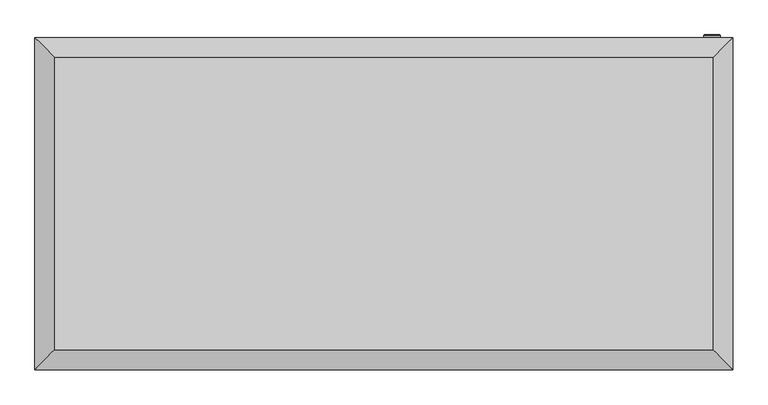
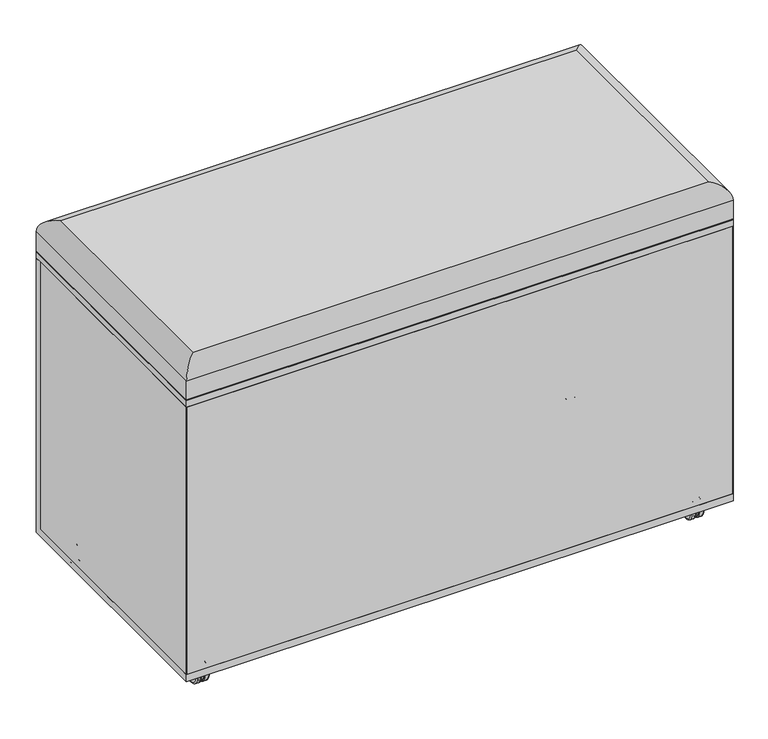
"""IFC4 building model written with IfcOpenShell, lengths in millimetres: furniture geometry, LH mobile caddy w.unpholstered seat+ sliding : LH mobile caddy w.unpholstered seat+ sliding."""

from ifc_helpers import new_model, si_unit, point, frame, frame_2d, origin, place, context, project, spatial, polyline, circle_curve, ellipse_curve, trimmed, segment, composite_curve, outline, extrude, faceted_brep, source, transform, mapped, element, save
from ifc_brep_helpers import plane_surface, cylinder_surface, revolved_surface, advanced_brep


def furniture_54b3566a(model_context):
    return source(origin(), model_context, "Body", "SolidModel", [
        advanced_brep(
        [(482.4473365, 254.0, 479.5526635), (505.5526635, 254.0, 479.5526635), (495.0273848, 254.0, 485.6206655), (493.0273848, 254.0, 485.6206655), (493.0273848, 254.0, 473.6206655), (495.0273848, 254.0, 473.6206655), (481.4473365, 250.0, 479.5526635), (506.5526635, 250.0, 479.5526635), (495.0273848, 250.0, 485.6206655), (495.0273848, 250.0, 473.6206655), (493.0273848, 250.0, 473.6206655), (493.0273848, 250.0, 485.6206655), (481.4473365, 253.0, 479.5526635), (506.5526635, 253.0, 479.5526635)],
        [
            (0, 1, circle_curve(frame((494.0, 254.0, 479.5526635), z_axis=(0.0, 1.0, 0.0), x_axis=(-1.0, 0.0, 0.0)), 11.5526635)),
            (1, 0, circle_curve(frame((494.0, 254.0, 479.5526635), z_axis=(0.0, 1.0, 0.0), x_axis=(1.0, 0.0, 0.0)), 11.5526635)),
            (2, 3),
            (3, 4),
            (4, 5),
            (5, 2),
            (6, 7, circle_curve(frame((494.0, 250.0, 479.5526635), z_axis=(0.0, -1.0, 0.0), x_axis=(1.0, 0.0, 0.0)), 12.5526635)),
            (7, 6, circle_curve(frame((494.0, 250.0, 479.5526635), z_axis=(0.0, -1.0, 0.0), x_axis=(1.0, 0.0, 0.0)), 12.5526635)),
            (8, 9),
            (9, 10),
            (10, 11),
            (11, 8),
            (6, 12),
            (12, 13, circle_curve(frame((494.0, 253.0, 479.5526635), z_axis=(0.0, -1.0, 0.0), x_axis=(1.0, 0.0, 0.0)), 12.5526635)),
            (13, 7),
            (13, 12, circle_curve(frame((494.0, 253.0, 479.5526635), z_axis=(0.0, -1.0, 0.0), x_axis=(1.0, 0.0, 0.0)), 12.5526635)),
            (5, 9),
            (8, 2),
            (4, 10),
            (3, 11),
            (1, 13, circle_curve(frame((505.5526635, 253.0, 479.5526635), z_axis=(0.0, 0.0, -1.0), x_axis=(1.0, 0.0, 0.0)), 1.0)),
            (12, 0, circle_curve(frame((482.4473365, 253.0, 479.5526635), z_axis=(0.0, 0.0, -1.0), x_axis=(-1.0, 0.0, 0.0)), 1.0)),
        ],
        [
            plane_surface(frame((506.5526635, 254.0, 479.5526635), z_axis=(0.0, 1.0, 0.0), x_axis=(0.0, 0.0, 1.0))),
            plane_surface(frame((506.5526635, 250.0, 479.5526635), z_axis=(0.0, -1.0, 0.0), x_axis=(0.0, 0.0, -1.0))),
            cylinder_surface(frame((494.0, 250.0, 479.5526635), z_axis=(0.0, 1.0, 0.0), x_axis=(1.0, 0.0, 0.0)), 12.5526635),
            plane_surface(frame((495.0273848, 254.0, 485.6206655), z_axis=(-1.0, 0.0, 0.0), x_axis=(0.0, -1.0, 0.0))),
            plane_surface(frame((495.0273848, 254.0, 473.6206655), z_axis=(0.0, 0.0, 1.0), x_axis=(0.0, -1.0, 0.0))),
            plane_surface(frame((493.0273848, 254.0, 473.6206655), z_axis=(1.0, 0.0, 0.0), x_axis=(0.0, -1.0, 0.0))),
            plane_surface(frame((493.0273848, 254.0, 485.6206655), z_axis=(0.0, 0.0, -1.0), x_axis=(0.0, -1.0, 0.0))),
            revolved_surface(trimmed(ellipse_curve(frame((505.5526635, 253.0, 479.5526635), z_axis=(0.0, 0.0, -1.0), x_axis=(1.0, 0.0, 0.0)), 1.0, 1.0), [point((505.5526635, 254.0, 479.5526635))], [point((506.5526635, 253.0, 479.5526635))], True, "CARTESIAN"), (494.0, 254.0, 479.5526635), (0.0, -1.0, 0.0)),
            revolved_surface(trimmed(ellipse_curve(frame((482.4473365, 253.0, 479.5526635), z_axis=(0.0, 0.0, 1.0), x_axis=(-1.0, 0.0, 0.0)), 1.0, 1.0), [point((482.4473365, 254.0, 479.5526635))], [point((481.4473365, 253.0, 479.5526635))], True, "CARTESIAN"), (494.0, 254.0, 479.5526635), (0.0, -1.0, 0.0)),
        ],
        [
            (0, [[1, 2], [3, 4, 5, 6]]),
            (1, [[7, 8], [9, 10, 11, 12]]),
            (2, [[13, 14, 15, -7]]),
            (2, [[-15, 16, -13, -8]]),
            (3, [[17, -9, 18, -6]]),
            (4, [[19, -10, -17, -5]]),
            (5, [[20, -11, -19, -4]]),
            (6, [[-18, -12, -20, -3]]),
            (7, [[-2, 21, -14, 22]]),
            (8, [[-16, -21, -1, -22]]),
        ],
    ),
        advanced_brep(
        [(495.0, -220.0, 685.0), (495.0, 220.0, 685.0), (-495.0, 220.0, 685.0), (-495.0, -220.0, 685.0), (523.0, 248.0, 615.0), (523.0, -248.0, 615.0), (-523.0, -248.0, 615.0), (-523.0, 248.0, 615.0), (-525.0, -250.0, 655.0), (-525.0, -250.0, 617.0), (525.0, -250.0, 617.0), (525.0, -250.0, 655.0), (-525.0, 250.0, 655.0), (-525.0, 250.0, 617.0), (525.0, 250.0, 655.0), (525.0, 250.0, 617.0)],
        [
            (0, 1),
            (1, 2),
            (2, 3),
            (3, 0),
            (4, 5),
            (5, 6),
            (6, 7),
            (7, 4),
            (8, 9),
            (9, 10),
            (10, 11),
            (11, 8),
            (12, 13),
            (13, 9),
            (8, 12),
            (14, 15),
            (15, 13),
            (12, 14),
            (10, 15),
            (14, 11),
            (11, 0, ellipse_curve(frame((495.0, -220.0, 655.0), z_axis=(-0.7071067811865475, -0.7071067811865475, 0.0), x_axis=(-0.7071067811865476, 0.7071067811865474, 0.0)), 42.4264069, 30.0)),
            (3, 8, ellipse_curve(frame((-495.0, -220.0, 655.0), z_axis=(0.7071067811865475, -0.7071067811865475, 0.0), x_axis=(-0.7071067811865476, -0.7071067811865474, 0.0)), 42.4264069, 30.0)),
            (2, 12, ellipse_curve(frame((-495.0, 220.0, 655.0), z_axis=(-0.7071067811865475, -0.7071067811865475, 0.0), x_axis=(-0.7071067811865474, 0.7071067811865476, 0.0)), 42.4264069, 30.0)),
            (1, 14, ellipse_curve(frame((495.0, 220.0, 655.0), z_axis=(-0.7071067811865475, 0.7071067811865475, 0.0), x_axis=(0.7071067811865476, 0.7071067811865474, 0.0)), 42.4264069, 30.0)),
            (15, 4, ellipse_curve(frame((523.0, 248.0, 617.0), z_axis=(-0.7071067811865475, 0.7071067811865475, 0.0), x_axis=(-0.7071067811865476, -0.7071067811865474, 0.0)), 2.8284271, 2.0)),
            (7, 13, ellipse_curve(frame((-523.0, 248.0, 617.0), z_axis=(0.7071067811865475, 0.7071067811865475, 0.0), x_axis=(-0.7071067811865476, 0.7071067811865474, 0.0)), 2.8284271, 2.0)),
            (6, 9, ellipse_curve(frame((-523.0, -248.0, 617.0), z_axis=(-0.7071067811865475, 0.7071067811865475, 0.0), x_axis=(-0.7071067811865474, -0.7071067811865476, 0.0)), 2.8284271, 2.0)),
            (5, 10, ellipse_curve(frame((523.0, -248.0, 617.0), z_axis=(-0.7071067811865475, -0.7071067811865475, 0.0), x_axis=(0.7071067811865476, -0.7071067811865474, 0.0)), 2.8284271, 2.0)),
        ],
        [
            plane_surface(frame((-525.0, -250.0, 685.0), z_axis=(0.0, 0.0, 1.0), x_axis=(-1.0, 0.0, 0.0))),
            plane_surface(frame((-525.0, -250.0, 615.0), z_axis=(0.0, 0.0, -1.0), x_axis=(1.0, 0.0, 0.0))),
            plane_surface(frame((525.0, -250.0, 685.0), z_axis=(0.0, -1.0, 0.0), x_axis=(0.0, 0.0, -1.0))),
            plane_surface(frame((-525.0, -250.0, 685.0), z_axis=(-1.0, 0.0, 0.0), x_axis=(0.0, 0.0, -1.0))),
            plane_surface(frame((-525.0, 250.0, 685.0), z_axis=(0.0, 1.0, 0.0), x_axis=(0.0, 0.0, -1.0))),
            plane_surface(frame((525.0, 250.0, 685.0), z_axis=(1.0, 0.0, 0.0), x_axis=(0.0, 0.0, -1.0))),
            cylinder_surface(frame((525.0, -220.0, 655.0), z_axis=(-1.0, 0.0, 0.0), x_axis=(0.0, 1.0, 0.0)), 30.0),
            cylinder_surface(frame((-495.0, -250.0, 655.0), z_axis=(0.0, 1.0, 0.0), x_axis=(1.0, 0.0, 0.0)), 30.0),
            cylinder_surface(frame((-525.0, 220.0, 655.0), z_axis=(1.0, 0.0, 0.0), x_axis=(0.0, -1.0, 0.0)), 30.0),
            cylinder_surface(frame((495.0, 250.0, 655.0), z_axis=(0.0, -1.0, 0.0), x_axis=(-1.0, 0.0, 0.0)), 30.0),
            cylinder_surface(frame((525.0, 248.0, 617.0), z_axis=(-1.0, 0.0, 0.0), x_axis=(0.0, -1.0, 0.0)), 2.0),
            cylinder_surface(frame((-523.0, 250.0, 617.0), z_axis=(0.0, -1.0, 0.0), x_axis=(1.0, 0.0, 0.0)), 2.0),
            cylinder_surface(frame((-525.0, -248.0, 617.0), z_axis=(1.0, 0.0, 0.0), x_axis=(0.0, 1.0, 0.0)), 2.0),
            cylinder_surface(frame((523.0, -250.0, 617.0), z_axis=(0.0, 1.0, 0.0), x_axis=(-1.0, 0.0, 0.0)), 2.0),
        ],
        [
            (0, [[1, 2, 3, 4]]),
            (1, [[5, 6, 7, 8]]),
            (2, [[9, 10, 11, 12]]),
            (3, [[13, 14, -9, 15]]),
            (4, [[16, 17, -13, 18]]),
            (5, [[-11, 19, -16, 20]]),
            (6, [[-12, 21, -4, 22]]),
            (7, [[-3, 23, -15, -22]]),
            (8, [[-2, 24, -18, -23]]),
            (9, [[-20, -24, -1, -21]]),
            (10, [[-17, 25, -8, 26]]),
            (11, [[-7, 27, -14, -26]]),
            (12, [[-6, 28, -10, -27]]),
            (13, [[-19, -28, -5, -25]]),
        ],
    ),
        extrude(outline(polyline([(485.0, 190.0), (465.0, 190.0), (465.0, 210.0), (485.0, 210.0), (485.0, 190.0)])), frame((0.0, 0.0, 43.9728703), z_axis=(0.0, 0.0, 1.0), x_axis=(1.0, 0.0, 0.0)), (0.0, 0.0, 1.0), 1.0),
        extrude(outline(composite_curve([segment(trimmed(circle_curve(frame_2d((475.0, 200.0)), 5.0), [point((470.0, 200.0))], [point((480.0, 200.0))], False, "CARTESIAN"), True, "CONTINUOUS"), segment(trimmed(circle_curve(frame_2d((475.0, 200.0)), 5.0), [point((480.0, 200.0))], [point((470.0, 200.0))], False, "CARTESIAN"), True, "CONTINUOUS")], self_intersect=False)), frame((0.0, 0.0, 33.9910172), z_axis=(0.0, 0.0, 1.0), x_axis=(1.0, 0.0, 0.0)), (0.0, 0.0, 1.0), 9.9818531),
        advanced_brep(
        [(479.1141274, 200.0, -0.0314992), (485.4241314, 200.0, -0.0314992), (485.4241314, 200.0, 38.0135337), (479.1141274, 200.0, 38.0135337), (477.5141274, 200.0, 2.5273707), (477.5141274, 200.0, 1.5685008), (477.5141274, 200.0, 36.4135337), (477.5141274, 200.0, 35.4546638), (487.5141274, 200.0, 2.0584968), (487.5141274, 200.0, 18.9910172), (487.5141274, 200.0, 35.9235376), (472.4858726, 200.0, 2.5273707), (472.4858726, 200.0, 35.4546638), (472.4858726, 200.0, 1.6116925), (472.4858726, 200.0, 36.370342), (470.8426809, 200.0, -0.0314992), (470.8426809, 200.0, 38.0135337), (464.4746043, 200.0, -0.0314992), (464.4746043, 200.0, 38.0135337), (462.4858726, 200.0, 1.9572325), (462.4858726, 200.0, 36.0248019), (462.4858726, 200.0, 18.9910172)],
        [
            (0, 1),
            (1, 2, circle_curve(frame((485.4241314, 200.0, 18.9910172), z_axis=(-1.0, 0.0, 0.0), x_axis=(0.0, 0.0, 1.0)), 19.0225164)),
            (2, 3),
            (3, 0, circle_curve(frame((479.1141274, 200.0, 18.9910172), z_axis=(1.0, 0.0, 0.0), x_axis=(0.0, 0.0, 1.0)), 19.0225164)),
            (2, 1, circle_curve(frame((485.4241314, 200.0, 18.9910172), z_axis=(-1.0, 0.0, 0.0), x_axis=(0.0, 0.0, 1.0)), 19.0225164)),
            (0, 3, circle_curve(frame((479.1141274, 200.0, 18.9910172), z_axis=(1.0, 0.0, 0.0), x_axis=(0.0, 0.0, 1.0)), 19.0225164)),
            (4, 5),
            (5, 6, circle_curve(frame((477.5141274, 200.0, 18.9910172), z_axis=(-1.0, 0.0, 0.0), x_axis=(0.0, 0.0, 1.0)), 17.4225164)),
            (6, 7),
            (7, 4, circle_curve(frame((477.5141274, 200.0, 18.9910172), z_axis=(1.0, 0.0, 0.0), x_axis=(0.0, 0.0, 1.0)), 16.4636466)),
            (6, 5, circle_curve(frame((477.5141274, 200.0, 18.9910172), z_axis=(-1.0, 0.0, 0.0), x_axis=(0.0, 0.0, 1.0)), 17.4225164)),
            (4, 7, circle_curve(frame((477.5141274, 200.0, 18.9910172), z_axis=(1.0, 0.0, 0.0), x_axis=(0.0, 0.0, 1.0)), 16.4636466)),
            (8, 9),
            (9, 10),
            (10, 8, circle_curve(frame((487.5141274, 200.0, 18.9910172), z_axis=(1.0, 0.0, 0.0), x_axis=(0.0, 0.0, 1.0)), 16.9325204)),
            (8, 10, circle_curve(frame((487.5141274, 200.0, 18.9910172), z_axis=(1.0, 0.0, 0.0), x_axis=(0.0, 0.0, 1.0)), 16.9325204)),
            (1, 8, circle_curve(frame((485.4241314, 200.0, 2.0584968), z_axis=(0.0, -1.0, 0.0), x_axis=(1.0, 0.0, 0.0)), 2.0899961)),
            (10, 2, circle_curve(frame((485.4241314, 200.0, 35.9235376), z_axis=(0.0, -1.0, 0.0), x_axis=(1.0, 0.0, 0.0)), 2.0899961)),
            (5, 0, circle_curve(frame((479.1141274, 200.0, 1.5685008), z_axis=(0.0, -1.0, 0.0), x_axis=(1.0, 0.0, 0.0)), 1.6)),
            (3, 6, circle_curve(frame((479.1141274, 200.0, 36.4135337), z_axis=(0.0, -1.0, 0.0), x_axis=(1.0, 0.0, 0.0)), 1.6)),
            (11, 4),
            (7, 12),
            (12, 11, circle_curve(frame((472.4858726, 200.0, 18.9910172), z_axis=(1.0, 0.0, 0.0), x_axis=(0.0, 0.0, 1.0)), 16.4636466)),
            (11, 12, circle_curve(frame((472.4858726, 200.0, 18.9910172), z_axis=(1.0, 0.0, 0.0), x_axis=(0.0, 0.0, 1.0)), 16.4636466)),
            (13, 11),
            (12, 14),
            (14, 13, circle_curve(frame((472.4858726, 200.0, 18.9910172), z_axis=(1.0, 0.0, 0.0), x_axis=(0.0, 0.0, 1.0)), 17.3793248)),
            (13, 14, circle_curve(frame((472.4858726, 200.0, 18.9910172), z_axis=(1.0, 0.0, 0.0), x_axis=(0.0, 0.0, 1.0)), 17.3793248)),
            (15, 13, circle_curve(frame((470.8426809, 200.0, 1.6116925), z_axis=(0.0, -1.0, 0.0), x_axis=(1.0, 0.0, 0.0)), 1.6431917)),
            (14, 16, circle_curve(frame((470.8426809, 200.0, 36.370342), z_axis=(0.0, -1.0, 0.0), x_axis=(1.0, 0.0, 0.0)), 1.6431917)),
            (16, 15, circle_curve(frame((470.8426809, 200.0, 18.9910172), z_axis=(1.0, 0.0, 0.0), x_axis=(0.0, 0.0, 1.0)), 19.0225164)),
            (15, 16, circle_curve(frame((470.8426809, 200.0, 18.9910172), z_axis=(1.0, 0.0, 0.0), x_axis=(0.0, 0.0, 1.0)), 19.0225164)),
            (17, 15),
            (16, 18),
            (18, 17, circle_curve(frame((464.4746043, 200.0, 18.9910172), z_axis=(1.0, 0.0, 0.0), x_axis=(0.0, 0.0, 1.0)), 19.0225164)),
            (17, 18, circle_curve(frame((464.4746043, 200.0, 18.9910172), z_axis=(1.0, 0.0, 0.0), x_axis=(0.0, 0.0, 1.0)), 19.0225164)),
            (19, 17, circle_curve(frame((464.4746043, 200.0, 1.9572325), z_axis=(0.0, -1.0, 0.0), x_axis=(1.0, 0.0, 0.0)), 1.9887317)),
            (18, 20, circle_curve(frame((464.4746043, 200.0, 36.0248019), z_axis=(0.0, -1.0, 0.0), x_axis=(1.0, 0.0, 0.0)), 1.9887317)),
            (20, 19, circle_curve(frame((462.4858726, 200.0, 18.9910172), z_axis=(1.0, 0.0, 0.0), x_axis=(0.0, 0.0, 1.0)), 17.0337847)),
            (19, 20, circle_curve(frame((462.4858726, 200.0, 18.9910172), z_axis=(1.0, 0.0, 0.0), x_axis=(0.0, 0.0, 1.0)), 17.0337847)),
            (21, 19),
            (20, 21),
        ],
        [
            cylinder_surface(frame((433.3216538, 200.0, 18.9910172), z_axis=(-1.0, 0.0, 0.0), x_axis=(0.0, 0.0, 1.0)), 19.0225164),
            plane_surface(frame((477.5141274, 200.0, 18.9910172), z_axis=(-1.0, 0.0, 0.0), x_axis=(0.0, 0.0, 1.0))),
            plane_surface(frame((487.5141274, 200.0, 18.9910172), z_axis=(1.0, 0.0, 0.0), x_axis=(0.0, 0.0, 1.0))),
            revolved_surface(trimmed(ellipse_curve(frame((485.4241314, 200.0, 35.9235376), z_axis=(0.0, -1.0, 0.0), x_axis=(1.0, 0.0, 0.0)), 2.0899961, 2.0899961), [point((487.5141274, 200.0, 35.9235376))], [point((485.4241314, 200.0, 38.0135337))], True, "CARTESIAN"), (433.3216538, 200.0, 18.9910172), (-1.0, 0.0, 0.0)),
            revolved_surface(trimmed(ellipse_curve(frame((479.1141274, 200.0, 36.4135337), z_axis=(0.0, -1.0, 0.0), x_axis=(1.0, 0.0, 0.0)), 1.6, 1.6), [point((479.1141274, 200.0, 38.0135337))], [point((477.5141274, 200.0, 36.4135337))], True, "CARTESIAN"), (433.3216538, 200.0, 18.9910172), (-1.0, 0.0, 0.0)),
            cylinder_surface(frame((433.3216538, 200.0, 18.9910172), z_axis=(-1.0, 0.0, 0.0), x_axis=(0.0, 0.0, 1.0)), 16.4636466),
            plane_surface(frame((472.4858726, 200.0, 18.9910172), z_axis=(1.0, 0.0, 0.0), x_axis=(0.0, 0.0, 1.0))),
            revolved_surface(trimmed(ellipse_curve(frame((470.8426809, 200.0, 36.370342), z_axis=(0.0, -1.0, 0.0), x_axis=(1.0, 0.0, 0.0)), 1.6431917, 1.6431917), [point((472.4858726, 200.0, 36.370342))], [point((470.8426809, 200.0, 38.0135337))], True, "CARTESIAN"), (433.3216538, 200.0, 18.9910172), (-1.0, 0.0, 0.0)),
            revolved_surface(trimmed(ellipse_curve(frame((464.4746043, 200.0, 36.0248019), z_axis=(0.0, -1.0, 0.0), x_axis=(1.0, 0.0, 0.0)), 1.9887317, 1.9887317), [point((464.4746043, 200.0, 38.0135337))], [point((462.4858726, 200.0, 36.0248019))], True, "CARTESIAN"), (433.3216538, 200.0, 18.9910172), (-1.0, 0.0, 0.0)),
            plane_surface(frame((462.4858726, 200.0, 18.9910172), z_axis=(-1.0, 0.0, 0.0), x_axis=(0.0, 0.0, 1.0))),
        ],
        [
            (0, [[1, 2, 3, 4]]),
            (0, [[-3, 5, -1, 6]]),
            (1, [[7, 8, 9, 10]]),
            (1, [[-9, 11, -7, 12]]),
            (2, [[13, 14, 15]]),
            (2, [[-14, -13, 16]]),
            (3, [[17, -15, 18, -2]]),
            (3, [[-18, -16, -17, -5]]),
            (4, [[19, -4, 20, -8]]),
            (4, [[-20, -6, -19, -11]]),
            (5, [[21, -10, 22, 23]]),
            (5, [[-22, -12, -21, 24]]),
            (6, [[25, -23, 26, 27]]),
            (6, [[-26, -24, -25, 28]]),
            (7, [[29, -27, 30, 31]]),
            (7, [[-30, -28, -29, 32]]),
            (0, [[33, -31, 34, 35]]),
            (0, [[-34, -32, -33, 36]]),
            (8, [[37, -35, 38, 39]]),
            (8, [[-38, -36, -37, 40]]),
            (9, [[41, -39, 42]]),
            (9, [[-42, -40, -41]]),
        ],
    ),
        extrude(outline(polyline([(-465.0, 190.0), (-485.0, 190.0), (-485.0, 210.0), (-465.0, 210.0), (-465.0, 190.0)])), frame((0.0, 0.0, 43.9728703), z_axis=(0.0, 0.0, 1.0), x_axis=(1.0, 0.0, 0.0)), (0.0, 0.0, 1.0), 1.0),
        extrude(outline(composite_curve([segment(trimmed(circle_curve(frame_2d((-475.0, 200.0)), 5.0), [point((-480.0, 200.0))], [point((-470.0, 200.0))], False, "CARTESIAN"), True, "CONTINUOUS"), segment(trimmed(circle_curve(frame_2d((-475.0, 200.0)), 5.0), [point((-470.0, 200.0))], [point((-480.0, 200.0))], False, "CARTESIAN"), True, "CONTINUOUS")], self_intersect=False)), frame((0.0, 0.0, 33.9910172), z_axis=(0.0, 0.0, 1.0), x_axis=(1.0, 0.0, 0.0)), (0.0, 0.0, 1.0), 9.9818531),
        advanced_brep(
        [(-470.8858726, 200.0, -0.0314992), (-464.5758686, 200.0, -0.0314992), (-464.5758686, 200.0, 38.0135337), (-470.8858726, 200.0, 38.0135337), (-472.4858726, 200.0, 2.5273707), (-472.4858726, 200.0, 1.5685008), (-472.4858726, 200.0, 36.4135337), (-472.4858726, 200.0, 35.4546638), (-462.4858726, 200.0, 2.0584968), (-462.4858726, 200.0, 18.9910172), (-462.4858726, 200.0, 35.9235376), (-477.5141274, 200.0, 2.5273707), (-477.5141274, 200.0, 35.4546638), (-477.5141274, 200.0, 1.6116925), (-477.5141274, 200.0, 36.370342), (-479.1573191, 200.0, -0.0314992), (-479.1573191, 200.0, 38.0135337), (-485.5253957, 200.0, -0.0314992), (-485.5253957, 200.0, 38.0135337), (-487.5141274, 200.0, 1.9572325), (-487.5141274, 200.0, 36.0248019), (-487.5141274, 200.0, 18.9910172)],
        [
            (0, 1),
            (1, 2, circle_curve(frame((-464.5758686, 200.0, 18.9910172), z_axis=(-1.0, 0.0, 0.0), x_axis=(0.0, 0.0, 1.0)), 19.0225164)),
            (2, 3),
            (3, 0, circle_curve(frame((-470.8858726, 200.0, 18.9910172), z_axis=(1.0, 0.0, 0.0), x_axis=(0.0, 0.0, 1.0)), 19.0225164)),
            (2, 1, circle_curve(frame((-464.5758686, 200.0, 18.9910172), z_axis=(-1.0, 0.0, 0.0), x_axis=(0.0, 0.0, 1.0)), 19.0225164)),
            (0, 3, circle_curve(frame((-470.8858726, 200.0, 18.9910172), z_axis=(1.0, 0.0, 0.0), x_axis=(0.0, 0.0, 1.0)), 19.0225164)),
            (4, 5),
            (5, 6, circle_curve(frame((-472.4858726, 200.0, 18.9910172), z_axis=(-1.0, 0.0, 0.0), x_axis=(0.0, 0.0, 1.0)), 17.4225164)),
            (6, 7),
            (7, 4, circle_curve(frame((-472.4858726, 200.0, 18.9910172), z_axis=(1.0, 0.0, 0.0), x_axis=(0.0, 0.0, 1.0)), 16.4636466)),
            (6, 5, circle_curve(frame((-472.4858726, 200.0, 18.9910172), z_axis=(-1.0, 0.0, 0.0), x_axis=(0.0, 0.0, 1.0)), 17.4225164)),
            (4, 7, circle_curve(frame((-472.4858726, 200.0, 18.9910172), z_axis=(1.0, 0.0, 0.0), x_axis=(0.0, 0.0, 1.0)), 16.4636466)),
            (8, 9),
            (9, 10),
            (10, 8, circle_curve(frame((-462.4858726, 200.0, 18.9910172), z_axis=(1.0, 0.0, 0.0), x_axis=(0.0, 0.0, 1.0)), 16.9325204)),
            (8, 10, circle_curve(frame((-462.4858726, 200.0, 18.9910172), z_axis=(1.0, 0.0, 0.0), x_axis=(0.0, 0.0, 1.0)), 16.9325204)),
            (1, 8, circle_curve(frame((-464.5758686, 200.0, 2.0584968), z_axis=(0.0, -1.0, 0.0), x_axis=(1.0, 0.0, 0.0)), 2.0899961)),
            (10, 2, circle_curve(frame((-464.5758686, 200.0, 35.9235376), z_axis=(0.0, -1.0, 0.0), x_axis=(1.0, 0.0, 0.0)), 2.0899961)),
            (5, 0, circle_curve(frame((-470.8858726, 200.0, 1.5685008), z_axis=(0.0, -1.0, 0.0), x_axis=(1.0, 0.0, 0.0)), 1.6)),
            (3, 6, circle_curve(frame((-470.8858726, 200.0, 36.4135337), z_axis=(0.0, -1.0, 0.0), x_axis=(1.0, 0.0, 0.0)), 1.6)),
            (11, 4),
            (7, 12),
            (12, 11, circle_curve(frame((-477.5141274, 200.0, 18.9910172), z_axis=(1.0, 0.0, 0.0), x_axis=(0.0, 0.0, 1.0)), 16.4636466)),
            (11, 12, circle_curve(frame((-477.5141274, 200.0, 18.9910172), z_axis=(1.0, 0.0, 0.0), x_axis=(0.0, 0.0, 1.0)), 16.4636466)),
            (13, 11),
            (12, 14),
            (14, 13, circle_curve(frame((-477.5141274, 200.0, 18.9910172), z_axis=(1.0, 0.0, 0.0), x_axis=(0.0, 0.0, 1.0)), 17.3793248)),
            (13, 14, circle_curve(frame((-477.5141274, 200.0, 18.9910172), z_axis=(1.0, 0.0, 0.0), x_axis=(0.0, 0.0, 1.0)), 17.3793248)),
            (15, 13, circle_curve(frame((-479.1573191, 200.0, 1.6116925), z_axis=(0.0, -1.0, 0.0), x_axis=(1.0, 0.0, 0.0)), 1.6431917)),
            (14, 16, circle_curve(frame((-479.1573191, 200.0, 36.370342), z_axis=(0.0, -1.0, 0.0), x_axis=(1.0, 0.0, 0.0)), 1.6431917)),
            (16, 15, circle_curve(frame((-479.1573191, 200.0, 18.9910172), z_axis=(1.0, 0.0, 0.0), x_axis=(0.0, 0.0, 1.0)), 19.0225164)),
            (15, 16, circle_curve(frame((-479.1573191, 200.0, 18.9910172), z_axis=(1.0, 0.0, 0.0), x_axis=(0.0, 0.0, 1.0)), 19.0225164)),
            (17, 15),
            (16, 18),
            (18, 17, circle_curve(frame((-485.5253957, 200.0, 18.9910172), z_axis=(1.0, 0.0, 0.0), x_axis=(0.0, 0.0, 1.0)), 19.0225164)),
            (17, 18, circle_curve(frame((-485.5253957, 200.0, 18.9910172), z_axis=(1.0, 0.0, 0.0), x_axis=(0.0, 0.0, 1.0)), 19.0225164)),
            (19, 17, circle_curve(frame((-485.5253957, 200.0, 1.9572325), z_axis=(0.0, -1.0, 0.0), x_axis=(1.0, 0.0, 0.0)), 1.9887317)),
            (18, 20, circle_curve(frame((-485.5253957, 200.0, 36.0248019), z_axis=(0.0, -1.0, 0.0), x_axis=(1.0, 0.0, 0.0)), 1.9887317)),
            (20, 19, circle_curve(frame((-487.5141274, 200.0, 18.9910172), z_axis=(1.0, 0.0, 0.0), x_axis=(0.0, 0.0, 1.0)), 17.0337847)),
            (19, 20, circle_curve(frame((-487.5141274, 200.0, 18.9910172), z_axis=(1.0, 0.0, 0.0), x_axis=(0.0, 0.0, 1.0)), 17.0337847)),
            (21, 19),
            (20, 21),
        ],
        [
            cylinder_surface(frame((-516.6783462, 200.0, 18.9910172), z_axis=(-1.0, 0.0, 0.0), x_axis=(0.0, 0.0, 1.0)), 19.0225164),
            plane_surface(frame((-472.4858726, 200.0, 18.9910172), z_axis=(-1.0, 0.0, 0.0), x_axis=(0.0, 0.0, 1.0))),
            plane_surface(frame((-462.4858726, 200.0, 18.9910172), z_axis=(1.0, 0.0, 0.0), x_axis=(0.0, 0.0, 1.0))),
            revolved_surface(trimmed(ellipse_curve(frame((-464.5758686, 200.0, 35.9235376), z_axis=(0.0, -1.0, 0.0), x_axis=(1.0, 0.0, 0.0)), 2.0899961, 2.0899961), [point((-462.4858726, 200.0, 35.9235376))], [point((-464.5758686, 200.0, 38.0135337))], True, "CARTESIAN"), (-516.6783462, 200.0, 18.9910172), (-1.0, 0.0, 0.0)),
            revolved_surface(trimmed(ellipse_curve(frame((-470.8858726, 200.0, 36.4135337), z_axis=(0.0, -1.0, 0.0), x_axis=(1.0, 0.0, 0.0)), 1.6, 1.6), [point((-470.8858726, 200.0, 38.0135337))], [point((-472.4858726, 200.0, 36.4135337))], True, "CARTESIAN"), (-516.6783462, 200.0, 18.9910172), (-1.0, 0.0, 0.0)),
            cylinder_surface(frame((-516.6783462, 200.0, 18.9910172), z_axis=(-1.0, 0.0, 0.0), x_axis=(0.0, 0.0, 1.0)), 16.4636466),
            plane_surface(frame((-477.5141274, 200.0, 18.9910172), z_axis=(1.0, 0.0, 0.0), x_axis=(0.0, 0.0, 1.0))),
            revolved_surface(trimmed(ellipse_curve(frame((-479.1573191, 200.0, 36.370342), z_axis=(0.0, -1.0, 0.0), x_axis=(1.0, 0.0, 0.0)), 1.6431917, 1.6431917), [point((-477.5141274, 200.0, 36.370342))], [point((-479.1573191, 200.0, 38.0135337))], True, "CARTESIAN"), (-516.6783462, 200.0, 18.9910172), (-1.0, 0.0, 0.0)),
            revolved_surface(trimmed(ellipse_curve(frame((-485.5253957, 200.0, 36.0248019), z_axis=(0.0, -1.0, 0.0), x_axis=(1.0, 0.0, 0.0)), 1.9887317, 1.9887317), [point((-485.5253957, 200.0, 38.0135337))], [point((-487.5141274, 200.0, 36.0248019))], True, "CARTESIAN"), (-516.6783462, 200.0, 18.9910172), (-1.0, 0.0, 0.0)),
            plane_surface(frame((-487.5141274, 200.0, 18.9910172), z_axis=(-1.0, 0.0, 0.0), x_axis=(0.0, 0.0, 1.0))),
        ],
        [
            (0, [[1, 2, 3, 4]]),
            (0, [[-3, 5, -1, 6]]),
            (1, [[7, 8, 9, 10]]),
            (1, [[-9, 11, -7, 12]]),
            (2, [[13, 14, 15]]),
            (2, [[-14, -13, 16]]),
            (3, [[17, -15, 18, -2]]),
            (3, [[-18, -16, -17, -5]]),
            (4, [[19, -4, 20, -8]]),
            (4, [[-20, -6, -19, -11]]),
            (5, [[21, -10, 22, 23]]),
            (5, [[-22, -12, -21, 24]]),
            (6, [[25, -23, 26, 27]]),
            (6, [[-26, -24, -25, 28]]),
            (7, [[29, -27, 30, 31]]),
            (7, [[-30, -28, -29, 32]]),
            (0, [[33, -31, 34, 35]]),
            (0, [[-34, -32, -33, 36]]),
            (8, [[37, -35, 38, 39]]),
            (8, [[-38, -36, -37, 40]]),
            (9, [[41, -39, 42]]),
            (9, [[-42, -40, -41]]),
        ],
    ),
        extrude(outline(polyline([(-465.0, -210.0), (-485.0, -210.0), (-485.0, -190.0), (-465.0, -190.0), (-465.0, -210.0)])), frame((0.0, 0.0, 43.9728703), z_axis=(0.0, 0.0, 1.0), x_axis=(1.0, 0.0, 0.0)), (0.0, 0.0, 1.0), 1.0),
        extrude(outline(composite_curve([segment(trimmed(circle_curve(frame_2d((-475.0, -200.0)), 5.0), [point((-480.0, -200.0))], [point((-470.0, -200.0))], False, "CARTESIAN"), True, "CONTINUOUS"), segment(trimmed(circle_curve(frame_2d((-475.0, -200.0)), 5.0), [point((-470.0, -200.0))], [point((-480.0, -200.0))], False, "CARTESIAN"), True, "CONTINUOUS")], self_intersect=False)), frame((0.0, 0.0, 33.9910172), z_axis=(0.0, 0.0, 1.0), x_axis=(1.0, 0.0, 0.0)), (0.0, 0.0, 1.0), 9.9818531),
        advanced_brep(
        [(-470.8858726, -200.0, -0.0314992), (-464.5758686, -200.0, -0.0314992), (-464.5758686, -200.0, 38.0135337), (-470.8858726, -200.0, 38.0135337), (-472.4858726, -200.0, 2.5273707), (-472.4858726, -200.0, 1.5685008), (-472.4858726, -200.0, 36.4135337), (-472.4858726, -200.0, 35.4546638), (-462.4858726, -200.0, 2.0584968), (-462.4858726, -200.0, 18.9910172), (-462.4858726, -200.0, 35.9235376), (-477.5141274, -200.0, 2.5273707), (-477.5141274, -200.0, 35.4546638), (-477.5141274, -200.0, 1.6116925), (-477.5141274, -200.0, 36.370342), (-479.1573191, -200.0, -0.0314992), (-479.1573191, -200.0, 38.0135337), (-485.5253957, -200.0, -0.0314992), (-485.5253957, -200.0, 38.0135337), (-487.5141274, -200.0, 1.9572325), (-487.5141274, -200.0, 36.0248019), (-487.5141274, -200.0, 18.9910172)],
        [
            (0, 1),
            (1, 2, circle_curve(frame((-464.5758686, -200.0, 18.9910172), z_axis=(-1.0, 0.0, 0.0), x_axis=(0.0, 0.0, 1.0)), 19.0225164)),
            (2, 3),
            (3, 0, circle_curve(frame((-470.8858726, -200.0, 18.9910172), z_axis=(1.0, 0.0, 0.0), x_axis=(0.0, 0.0, 1.0)), 19.0225164)),
            (2, 1, circle_curve(frame((-464.5758686, -200.0, 18.9910172), z_axis=(-1.0, 0.0, 0.0), x_axis=(0.0, 0.0, 1.0)), 19.0225164)),
            (0, 3, circle_curve(frame((-470.8858726, -200.0, 18.9910172), z_axis=(1.0, 0.0, 0.0), x_axis=(0.0, 0.0, 1.0)), 19.0225164)),
            (4, 5),
            (5, 6, circle_curve(frame((-472.4858726, -200.0, 18.9910172), z_axis=(-1.0, 0.0, 0.0), x_axis=(0.0, 0.0, 1.0)), 17.4225164)),
            (6, 7),
            (7, 4, circle_curve(frame((-472.4858726, -200.0, 18.9910172), z_axis=(1.0, 0.0, 0.0), x_axis=(0.0, 0.0, 1.0)), 16.4636466)),
            (6, 5, circle_curve(frame((-472.4858726, -200.0, 18.9910172), z_axis=(-1.0, 0.0, 0.0), x_axis=(0.0, 0.0, 1.0)), 17.4225164)),
            (4, 7, circle_curve(frame((-472.4858726, -200.0, 18.9910172), z_axis=(1.0, 0.0, 0.0), x_axis=(0.0, 0.0, 1.0)), 16.4636466)),
            (8, 9),
            (9, 10),
            (10, 8, circle_curve(frame((-462.4858726, -200.0, 18.9910172), z_axis=(1.0, 0.0, 0.0), x_axis=(0.0, 0.0, 1.0)), 16.9325204)),
            (8, 10, circle_curve(frame((-462.4858726, -200.0, 18.9910172), z_axis=(1.0, 0.0, 0.0), x_axis=(0.0, 0.0, 1.0)), 16.9325204)),
            (1, 8, circle_curve(frame((-464.5758686, -200.0, 2.0584968), z_axis=(0.0, -1.0, 0.0), x_axis=(1.0, 0.0, 0.0)), 2.0899961)),
            (10, 2, circle_curve(frame((-464.5758686, -200.0, 35.9235376), z_axis=(0.0, -1.0, 0.0), x_axis=(1.0, 0.0, 0.0)), 2.0899961)),
            (5, 0, circle_curve(frame((-470.8858726, -200.0, 1.5685008), z_axis=(0.0, -1.0, 0.0), x_axis=(1.0, 0.0, 0.0)), 1.6)),
            (3, 6, circle_curve(frame((-470.8858726, -200.0, 36.4135337), z_axis=(0.0, -1.0, 0.0), x_axis=(1.0, 0.0, 0.0)), 1.6)),
            (11, 4),
            (7, 12),
            (12, 11, circle_curve(frame((-477.5141274, -200.0, 18.9910172), z_axis=(1.0, 0.0, 0.0), x_axis=(0.0, 0.0, 1.0)), 16.4636466)),
            (11, 12, circle_curve(frame((-477.5141274, -200.0, 18.9910172), z_axis=(1.0, 0.0, 0.0), x_axis=(0.0, 0.0, 1.0)), 16.4636466)),
            (13, 11),
            (12, 14),
            (14, 13, circle_curve(frame((-477.5141274, -200.0, 18.9910172), z_axis=(1.0, 0.0, 0.0), x_axis=(0.0, 0.0, 1.0)), 17.3793248)),
            (13, 14, circle_curve(frame((-477.5141274, -200.0, 18.9910172), z_axis=(1.0, 0.0, 0.0), x_axis=(0.0, 0.0, 1.0)), 17.3793248)),
            (15, 13, circle_curve(frame((-479.1573191, -200.0, 1.6116925), z_axis=(0.0, -1.0, 0.0), x_axis=(1.0, 0.0, 0.0)), 1.6431917)),
            (14, 16, circle_curve(frame((-479.1573191, -200.0, 36.370342), z_axis=(0.0, -1.0, 0.0), x_axis=(1.0, 0.0, 0.0)), 1.6431917)),
            (16, 15, circle_curve(frame((-479.1573191, -200.0, 18.9910172), z_axis=(1.0, 0.0, 0.0), x_axis=(0.0, 0.0, 1.0)), 19.0225164)),
            (15, 16, circle_curve(frame((-479.1573191, -200.0, 18.9910172), z_axis=(1.0, 0.0, 0.0), x_axis=(0.0, 0.0, 1.0)), 19.0225164)),
            (17, 15),
            (16, 18),
            (18, 17, circle_curve(frame((-485.5253957, -200.0, 18.9910172), z_axis=(1.0, 0.0, 0.0), x_axis=(0.0, 0.0, 1.0)), 19.0225164)),
            (17, 18, circle_curve(frame((-485.5253957, -200.0, 18.9910172), z_axis=(1.0, 0.0, 0.0), x_axis=(0.0, 0.0, 1.0)), 19.0225164)),
            (19, 17, circle_curve(frame((-485.5253957, -200.0, 1.9572325), z_axis=(0.0, -1.0, 0.0), x_axis=(1.0, 0.0, 0.0)), 1.9887317)),
            (18, 20, circle_curve(frame((-485.5253957, -200.0, 36.0248019), z_axis=(0.0, -1.0, 0.0), x_axis=(1.0, 0.0, 0.0)), 1.9887317)),
            (20, 19, circle_curve(frame((-487.5141274, -200.0, 18.9910172), z_axis=(1.0, 0.0, 0.0), x_axis=(0.0, 0.0, 1.0)), 17.0337847)),
            (19, 20, circle_curve(frame((-487.5141274, -200.0, 18.9910172), z_axis=(1.0, 0.0, 0.0), x_axis=(0.0, 0.0, 1.0)), 17.0337847)),
            (21, 19),
            (20, 21),
        ],
        [
            cylinder_surface(frame((-516.6783462, -200.0, 18.9910172), z_axis=(-1.0, 0.0, 0.0), x_axis=(0.0, 0.0, 1.0)), 19.0225164),
            plane_surface(frame((-472.4858726, -200.0, 18.9910172), z_axis=(-1.0, 0.0, 0.0), x_axis=(0.0, 0.0, 1.0))),
            plane_surface(frame((-462.4858726, -200.0, 18.9910172), z_axis=(1.0, 0.0, 0.0), x_axis=(0.0, 0.0, 1.0))),
            revolved_surface(trimmed(ellipse_curve(frame((-464.5758686, -200.0, 35.9235376), z_axis=(0.0, -1.0, 0.0), x_axis=(1.0, 0.0, 0.0)), 2.0899961, 2.0899961), [point((-462.4858726, -200.0, 35.9235376))], [point((-464.5758686, -200.0, 38.0135337))], True, "CARTESIAN"), (-516.6783462, -200.0, 18.9910172), (-1.0, 0.0, 0.0)),
            revolved_surface(trimmed(ellipse_curve(frame((-470.8858726, -200.0, 36.4135337), z_axis=(0.0, -1.0, 0.0), x_axis=(1.0, 0.0, 0.0)), 1.6, 1.6), [point((-470.8858726, -200.0, 38.0135337))], [point((-472.4858726, -200.0, 36.4135337))], True, "CARTESIAN"), (-516.6783462, -200.0, 18.9910172), (-1.0, 0.0, 0.0)),
            cylinder_surface(frame((-516.6783462, -200.0, 18.9910172), z_axis=(-1.0, 0.0, 0.0), x_axis=(0.0, 0.0, 1.0)), 16.4636466),
            plane_surface(frame((-477.5141274, -200.0, 18.9910172), z_axis=(1.0, 0.0, 0.0), x_axis=(0.0, 0.0, 1.0))),
            revolved_surface(trimmed(ellipse_curve(frame((-479.1573191, -200.0, 36.370342), z_axis=(0.0, -1.0, 0.0), x_axis=(1.0, 0.0, 0.0)), 1.6431917, 1.6431917), [point((-477.5141274, -200.0, 36.370342))], [point((-479.1573191, -200.0, 38.0135337))], True, "CARTESIAN"), (-516.6783462, -200.0, 18.9910172), (-1.0, 0.0, 0.0)),
            revolved_surface(trimmed(ellipse_curve(frame((-485.5253957, -200.0, 36.0248019), z_axis=(0.0, -1.0, 0.0), x_axis=(1.0, 0.0, 0.0)), 1.9887317, 1.9887317), [point((-485.5253957, -200.0, 38.0135337))], [point((-487.5141274, -200.0, 36.0248019))], True, "CARTESIAN"), (-516.6783462, -200.0, 18.9910172), (-1.0, 0.0, 0.0)),
            plane_surface(frame((-487.5141274, -200.0, 18.9910172), z_axis=(-1.0, 0.0, 0.0), x_axis=(0.0, 0.0, 1.0))),
        ],
        [
            (0, [[1, 2, 3, 4]]),
            (0, [[-3, 5, -1, 6]]),
            (1, [[7, 8, 9, 10]]),
            (1, [[-9, 11, -7, 12]]),
            (2, [[13, 14, 15]]),
            (2, [[-14, -13, 16]]),
            (3, [[17, -15, 18, -2]]),
            (3, [[-18, -16, -17, -5]]),
            (4, [[19, -4, 20, -8]]),
            (4, [[-20, -6, -19, -11]]),
            (5, [[21, -10, 22, 23]]),
            (5, [[-22, -12, -21, 24]]),
            (6, [[25, -23, 26, 27]]),
            (6, [[-26, -24, -25, 28]]),
            (7, [[29, -27, 30, 31]]),
            (7, [[-30, -28, -29, 32]]),
            (0, [[33, -31, 34, 35]]),
            (0, [[-34, -32, -33, 36]]),
            (8, [[37, -35, 38, 39]]),
            (8, [[-38, -36, -37, 40]]),
            (9, [[41, -39, 42]]),
            (9, [[-42, -40, -41]]),
        ],
    ),
        extrude(outline(polyline([(485.0, -210.0), (465.0, -210.0), (465.0, -190.0), (485.0, -190.0), (485.0, -210.0)])), frame((0.0, 0.0, 43.9728703), z_axis=(0.0, 0.0, 1.0), x_axis=(1.0, 0.0, 0.0)), (0.0, 0.0, 1.0), 1.0),
        extrude(outline(composite_curve([segment(trimmed(circle_curve(frame_2d((475.0, -200.0)), 5.0), [point((470.0, -200.0))], [point((480.0, -200.0))], False, "CARTESIAN"), True, "CONTINUOUS"), segment(trimmed(circle_curve(frame_2d((475.0, -200.0)), 5.0), [point((480.0, -200.0))], [point((470.0, -200.0))], False, "CARTESIAN"), True, "CONTINUOUS")], self_intersect=False)), frame((0.0, 0.0, 33.9910172), z_axis=(0.0, 0.0, 1.0), x_axis=(1.0, 0.0, 0.0)), (0.0, 0.0, 1.0), 9.9818531),
        advanced_brep(
        [(479.1141274, -200.0, -0.0314992), (485.4241314, -200.0, -0.0314992), (485.4241314, -200.0, 38.0135337), (479.1141274, -200.0, 38.0135337), (477.5141274, -200.0, 2.5273707), (477.5141274, -200.0, 1.5685008), (477.5141274, -200.0, 36.4135337), (477.5141274, -200.0, 35.4546638), (487.5141274, -200.0, 2.0584968), (487.5141274, -200.0, 18.9910172), (487.5141274, -200.0, 35.9235376), (472.4858726, -200.0, 2.5273707), (472.4858726, -200.0, 35.4546638), (472.4858726, -200.0, 1.6116925), (472.4858726, -200.0, 36.370342), (470.8426809, -200.0, -0.0314992), (470.8426809, -200.0, 38.0135337), (464.4746043, -200.0, -0.0314992), (464.4746043, -200.0, 38.0135337), (462.4858726, -200.0, 1.9572325), (462.4858726, -200.0, 36.0248019), (462.4858726, -200.0, 18.9910172)],
        [
            (0, 1),
            (1, 2, circle_curve(frame((485.4241314, -200.0, 18.9910172), z_axis=(-1.0, 0.0, 0.0), x_axis=(0.0, 0.0, 1.0)), 19.0225164)),
            (2, 3),
            (3, 0, circle_curve(frame((479.1141274, -200.0, 18.9910172), z_axis=(1.0, 0.0, 0.0), x_axis=(0.0, 0.0, 1.0)), 19.0225164)),
            (2, 1, circle_curve(frame((485.4241314, -200.0, 18.9910172), z_axis=(-1.0, 0.0, 0.0), x_axis=(0.0, 0.0, 1.0)), 19.0225164)),
            (0, 3, circle_curve(frame((479.1141274, -200.0, 18.9910172), z_axis=(1.0, 0.0, 0.0), x_axis=(0.0, 0.0, 1.0)), 19.0225164)),
            (4, 5),
            (5, 6, circle_curve(frame((477.5141274, -200.0, 18.9910172), z_axis=(-1.0, 0.0, 0.0), x_axis=(0.0, 0.0, 1.0)), 17.4225164)),
            (6, 7),
            (7, 4, circle_curve(frame((477.5141274, -200.0, 18.9910172), z_axis=(1.0, 0.0, 0.0), x_axis=(0.0, 0.0, 1.0)), 16.4636466)),
            (6, 5, circle_curve(frame((477.5141274, -200.0, 18.9910172), z_axis=(-1.0, 0.0, 0.0), x_axis=(0.0, 0.0, 1.0)), 17.4225164)),
            (4, 7, circle_curve(frame((477.5141274, -200.0, 18.9910172), z_axis=(1.0, 0.0, 0.0), x_axis=(0.0, 0.0, 1.0)), 16.4636466)),
            (8, 9),
            (9, 10),
            (10, 8, circle_curve(frame((487.5141274, -200.0, 18.9910172), z_axis=(1.0, 0.0, 0.0), x_axis=(0.0, 0.0, 1.0)), 16.9325204)),
            (8, 10, circle_curve(frame((487.5141274, -200.0, 18.9910172), z_axis=(1.0, 0.0, 0.0), x_axis=(0.0, 0.0, 1.0)), 16.9325204)),
            (1, 8, circle_curve(frame((485.4241314, -200.0, 2.0584968), z_axis=(0.0, -1.0, 0.0), x_axis=(1.0, 0.0, 0.0)), 2.0899961)),
            (10, 2, circle_curve(frame((485.4241314, -200.0, 35.9235376), z_axis=(0.0, -1.0, 0.0), x_axis=(1.0, 0.0, 0.0)), 2.0899961)),
            (5, 0, circle_curve(frame((479.1141274, -200.0, 1.5685008), z_axis=(0.0, -1.0, 0.0), x_axis=(1.0, 0.0, 0.0)), 1.6)),
            (3, 6, circle_curve(frame((479.1141274, -200.0, 36.4135337), z_axis=(0.0, -1.0, 0.0), x_axis=(1.0, 0.0, 0.0)), 1.6)),
            (11, 4),
            (7, 12),
            (12, 11, circle_curve(frame((472.4858726, -200.0, 18.9910172), z_axis=(1.0, 0.0, 0.0), x_axis=(0.0, 0.0, 1.0)), 16.4636466)),
            (11, 12, circle_curve(frame((472.4858726, -200.0, 18.9910172), z_axis=(1.0, 0.0, 0.0), x_axis=(0.0, 0.0, 1.0)), 16.4636466)),
            (13, 11),
            (12, 14),
            (14, 13, circle_curve(frame((472.4858726, -200.0, 18.9910172), z_axis=(1.0, 0.0, 0.0), x_axis=(0.0, 0.0, 1.0)), 17.3793248)),
            (13, 14, circle_curve(frame((472.4858726, -200.0, 18.9910172), z_axis=(1.0, 0.0, 0.0), x_axis=(0.0, 0.0, 1.0)), 17.3793248)),
            (15, 13, circle_curve(frame((470.8426809, -200.0, 1.6116925), z_axis=(0.0, -1.0, 0.0), x_axis=(1.0, 0.0, 0.0)), 1.6431917)),
            (14, 16, circle_curve(frame((470.8426809, -200.0, 36.370342), z_axis=(0.0, -1.0, 0.0), x_axis=(1.0, 0.0, 0.0)), 1.6431917)),
            (16, 15, circle_curve(frame((470.8426809, -200.0, 18.9910172), z_axis=(1.0, 0.0, 0.0), x_axis=(0.0, 0.0, 1.0)), 19.0225164)),
            (15, 16, circle_curve(frame((470.8426809, -200.0, 18.9910172), z_axis=(1.0, 0.0, 0.0), x_axis=(0.0, 0.0, 1.0)), 19.0225164)),
            (17, 15),
            (16, 18),
            (18, 17, circle_curve(frame((464.4746043, -200.0, 18.9910172), z_axis=(1.0, 0.0, 0.0), x_axis=(0.0, 0.0, 1.0)), 19.0225164)),
            (17, 18, circle_curve(frame((464.4746043, -200.0, 18.9910172), z_axis=(1.0, 0.0, 0.0), x_axis=(0.0, 0.0, 1.0)), 19.0225164)),
            (19, 17, circle_curve(frame((464.4746043, -200.0, 1.9572325), z_axis=(0.0, -1.0, 0.0), x_axis=(1.0, 0.0, 0.0)), 1.9887317)),
            (18, 20, circle_curve(frame((464.4746043, -200.0, 36.0248019), z_axis=(0.0, -1.0, 0.0), x_axis=(1.0, 0.0, 0.0)), 1.9887317)),
            (20, 19, circle_curve(frame((462.4858726, -200.0, 18.9910172), z_axis=(1.0, 0.0, 0.0), x_axis=(0.0, 0.0, 1.0)), 17.0337847)),
            (19, 20, circle_curve(frame((462.4858726, -200.0, 18.9910172), z_axis=(1.0, 0.0, 0.0), x_axis=(0.0, 0.0, 1.0)), 17.0337847)),
            (21, 19),
            (20, 21),
        ],
        [
            cylinder_surface(frame((433.3216538, -200.0, 18.9910172), z_axis=(-1.0, 0.0, 0.0), x_axis=(0.0, 0.0, 1.0)), 19.0225164),
            plane_surface(frame((477.5141274, -200.0, 18.9910172), z_axis=(-1.0, 0.0, 0.0), x_axis=(0.0, 0.0, 1.0))),
            plane_surface(frame((487.5141274, -200.0, 18.9910172), z_axis=(1.0, 0.0, 0.0), x_axis=(0.0, 0.0, 1.0))),
            revolved_surface(trimmed(ellipse_curve(frame((485.4241314, -200.0, 35.9235376), z_axis=(0.0, -1.0, 0.0), x_axis=(1.0, 0.0, 0.0)), 2.0899961, 2.0899961), [point((487.5141274, -200.0, 35.9235376))], [point((485.4241314, -200.0, 38.0135337))], True, "CARTESIAN"), (433.3216538, -200.0, 18.9910172), (-1.0, 0.0, 0.0)),
            revolved_surface(trimmed(ellipse_curve(frame((479.1141274, -200.0, 36.4135337), z_axis=(0.0, -1.0, 0.0), x_axis=(1.0, 0.0, 0.0)), 1.6, 1.6), [point((479.1141274, -200.0, 38.0135337))], [point((477.5141274, -200.0, 36.4135337))], True, "CARTESIAN"), (433.3216538, -200.0, 18.9910172), (-1.0, 0.0, 0.0)),
            cylinder_surface(frame((433.3216538, -200.0, 18.9910172), z_axis=(-1.0, 0.0, 0.0), x_axis=(0.0, 0.0, 1.0)), 16.4636466),
            plane_surface(frame((472.4858726, -200.0, 18.9910172), z_axis=(1.0, 0.0, 0.0), x_axis=(0.0, 0.0, 1.0))),
            revolved_surface(trimmed(ellipse_curve(frame((470.8426809, -200.0, 36.370342), z_axis=(0.0, -1.0, 0.0), x_axis=(1.0, 0.0, 0.0)), 1.6431917, 1.6431917), [point((472.4858726, -200.0, 36.370342))], [point((470.8426809, -200.0, 38.0135337))], True, "CARTESIAN"), (433.3216538, -200.0, 18.9910172), (-1.0, 0.0, 0.0)),
            revolved_surface(trimmed(ellipse_curve(frame((464.4746043, -200.0, 36.0248019), z_axis=(0.0, -1.0, 0.0), x_axis=(1.0, 0.0, 0.0)), 1.9887317, 1.9887317), [point((464.4746043, -200.0, 38.0135337))], [point((462.4858726, -200.0, 36.0248019))], True, "CARTESIAN"), (433.3216538, -200.0, 18.9910172), (-1.0, 0.0, 0.0)),
            plane_surface(frame((462.4858726, -200.0, 18.9910172), z_axis=(-1.0, 0.0, 0.0), x_axis=(0.0, 0.0, 1.0))),
        ],
        [
            (0, [[1, 2, 3, 4]]),
            (0, [[-3, 5, -1, 6]]),
            (1, [[7, 8, 9, 10]]),
            (1, [[-9, 11, -7, 12]]),
            (2, [[13, 14, 15]]),
            (2, [[-14, -13, 16]]),
            (3, [[17, -15, 18, -2]]),
            (3, [[-18, -16, -17, -5]]),
            (4, [[19, -4, 20, -8]]),
            (4, [[-20, -6, -19, -11]]),
            (5, [[21, -10, 22, 23]]),
            (5, [[-22, -12, -21, 24]]),
            (6, [[25, -23, 26, 27]]),
            (6, [[-26, -24, -25, 28]]),
            (7, [[29, -27, 30, 31]]),
            (7, [[-30, -28, -29, 32]]),
            (0, [[33, -31, 34, 35]]),
            (0, [[-34, -32, -33, 36]]),
            (8, [[37, -35, 38, 39]]),
            (8, [[-38, -36, -37, 40]]),
            (9, [[41, -39, 42]]),
            (9, [[-42, -40, -41]]),
        ],
    ),
        faceted_brep([(-472.0051316, -242.0, 602.0), (-472.0051316, 228.2249016, 602.0), (113.0, 228.2249016, 602.0), (113.0, 236.0, 602.0), (133.0, 236.0, 602.0), (133.0, 237.0, 602.0), (-524.0, 237.0, 602.0), (-524.0, -249.0, 602.0), (113.0, -249.0, 602.0), (113.0, -242.0, 602.0), (-524.0, 237.0, 58.9728703), (133.0, 237.0, 58.9728703), (133.0, 236.0, 58.9728703), (113.0, 236.0, 58.9728703), (113.0, -249.0, 58.9728703), (-524.0, -249.0, 58.9728703), (-472.0051316, -242.0, 58.9728703), (100.0, -242.0, 58.9728703), (100.0, 228.2249016, 58.9728703), (-472.0051316, 228.2249016, 58.9728703), (113.0, -242.0, 600.9519482), (100.0, -242.0, 600.9519482), (113.0, 228.2249016, 600.9519482), (-472.0051316, 237.0, 63.9114638), (100.0, 237.0, 63.9114638), (100.0, 237.0, 596.9114638), (-472.0051316, 237.0, 596.9114638), (-472.0051316, 228.2249016, 63.9114638), (-472.0051316, 228.2249016, 596.9114638), (100.0, 228.2249016, 63.9114638), (100.0, 228.2249016, 596.9114638), (100.0, 228.2249016, 600.9519482)], [[[0, 1, 2, 3, 4, 5, 6, 7, 8, 9]], [[10, 11, 12, 13, 14, 15], [16, 17, 18, 19]], [[9, 20, 21, 17, 16, 0]], [[8, 14, 13, 3, 2, 22, 20, 9]], [[7, 15, 14, 8]], [[6, 10, 15, 7]], [[5, 11, 10, 6], [23, 24, 25, 26]], [[16, 19, 27, 23, 26, 28, 1, 0]], [[19, 18, 29, 27]], [[1, 28, 30, 31, 22, 2]], [[27, 29, 24, 23]], [[26, 25, 30, 28]], [[22, 31, 21, 20]], [[24, 29, 18, 17, 21, 31, 30, 25]], [[3, 13, 12, 4]], [[4, 12, 11, 5]]]),
        faceted_brep([(515.0, 237.0, 602.0), (515.0, 236.0, 602.0), (524.0, 236.0, 602.0), (524.0, 237.0, 602.0), (515.0, 237.0, 58.9728703), (524.0, 237.0, 58.9728703), (524.0, 236.0, 58.9728703), (515.0, 236.0, 58.9728703)], [[[0, 1, 2, 3]], [[4, 5, 6, 7]], [[3, 5, 4, 0]], [[2, 6, 5, 3]], [[1, 7, 6, 2]], [[0, 4, 7, 1]]]),
        faceted_brep([(-512.0, 237.0, 602.0), (-512.0, 250.0, 602.0), (-525.0, 250.0, 602.0), (-525.0, 237.0, 602.0), (-525.0, 237.0, 58.9728703), (-512.0, 237.0, 58.9728703), (-525.0, 250.0, 44.9728703), (-525.0, -250.0, 44.9728703), (-525.0, -250.0, 58.9728703), (-512.0, 250.0, 58.9728703), (525.0, 250.0, 58.9728703), (525.0, 250.0, 44.9728703), (525.0, -250.0, 58.9728703), (525.0, -250.0, 44.9728703)], [[[0, 1, 2, 3]], [[3, 4, 5, 0]], [[2, 6, 7, 8, 4, 3]], [[1, 9, 10, 11, 6, 2]], [[0, 5, 9, 1]], [[12, 8, 7, 13]], [[12, 10, 9, 5, 4, 8]], [[11, 13, 7, 6]], [[10, 12, 13, 11]]]),
        extrude(outline(polyline([(515.0, 237.0), (133.0, 237.0), (123.0, 247.0), (123.0, 250.0), (525.0, 250.0), (525.0, 247.0), (515.0, 237.0)])), frame((0.0, 0.0, 503.9728703), z_axis=(0.0, 0.0, 1.0), x_axis=(1.0, 0.0, 0.0)), (0.0, 0.0, 1.0), 96.9790779),
        extrude(outline(polyline([(515.0, 237.0), (133.0, 237.0), (123.0, 247.0), (123.0, 250.0), (525.0, 250.0), (525.0, 247.0), (515.0, 237.0)])), frame((0.0, 0.0, 392.9728703), z_axis=(0.0, 0.0, 1.0), x_axis=(1.0, 0.0, 0.0)), (0.0, 0.0, 1.0), 110.0),
        extrude(outline(polyline([(515.0, 237.0), (133.0, 237.0), (123.0, 247.0), (123.0, 250.0), (525.0, 250.0), (525.0, 247.0), (515.0, 237.0)])), frame((0.0, 0.0, 58.9728703), z_axis=(0.0, 0.0, 1.0), x_axis=(1.0, 0.0, 0.0)), (0.0, 0.0, 1.0), 333.0),
        extrude(outline(polyline([(-524.0, -250.0), (-525.0, -250.0), (-525.0, 237.0), (-524.0, 237.0), (-524.0, -250.0)])), frame((0.0, 0.0, 58.9728703), z_axis=(0.0, 0.0, 1.0), x_axis=(1.0, 0.0, 0.0)), (0.0, 0.0, 1.0), 543.0271297),
        extrude(outline(polyline([(525.0, -250.0), (524.0, -250.0), (524.0, 237.0), (525.0, 237.0), (525.0, -250.0)])), frame((0.0, 0.0, 58.9728703), z_axis=(0.0, 0.0, 1.0), x_axis=(1.0, 0.0, 0.0)), (0.0, 0.0, 1.0), 543.0271297),
        extrude(outline(polyline([(524.0, -250.0), (-524.0, -250.0), (-524.0, -249.0), (524.0, -249.0), (524.0, -250.0)])), frame((0.0, 0.0, 58.9728703), z_axis=(0.0, 0.0, 1.0), x_axis=(1.0, 0.0, 0.0)), (0.0, 0.0, 1.0), 543.0271297),
        extrude(outline(polyline([(525.0, -250.0), (-525.0, -250.0), (-525.0, 250.0), (525.0, 250.0), (525.0, -250.0)])), frame((0.0, 0.0, 602.0), z_axis=(0.0, 0.0, 1.0), x_axis=(1.0, 0.0, 0.0)), (0.0, 0.0, 1.0), 13.0),
    ])


if __name__ == "__main__":
    model = new_model("IFC4")
    model_context = context("Model", 3, world=origin())
    ifc_project = project(units=[si_unit("LENGTHUNIT", "METRE", prefix="MILLI")], contexts=[model_context])
    site = spatial("IfcSite", under=ifc_project)
    building = spatial("IfcBuilding", under=site)
    placement = place(None, origin())
    furniture_shape = furniture_54b3566a(model_context)
    element("IfcFurniture", 1, ObjectType="LH mobile caddy w.unpholstered seat+ sliding : LH mobile caddy w.unpholstered seat+ sliding", at=placement, inside=building, context=model_context, shape_type="MappedRepresentation", body=[
        mapped(furniture_shape, transform((0.0, 0.0, 0.0), x_axis=(1.0, 0.0, 0.0), y_axis=(0.0, 1.0, 0.0), z_axis=(0.0, 0.0, 1.0))),
    ])
    save(model, "model.ifc")
